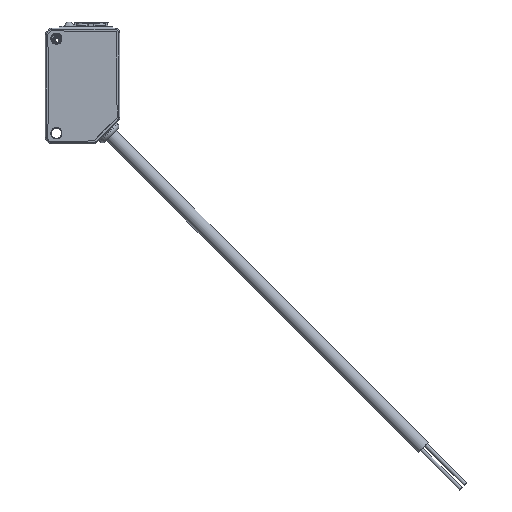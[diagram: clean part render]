
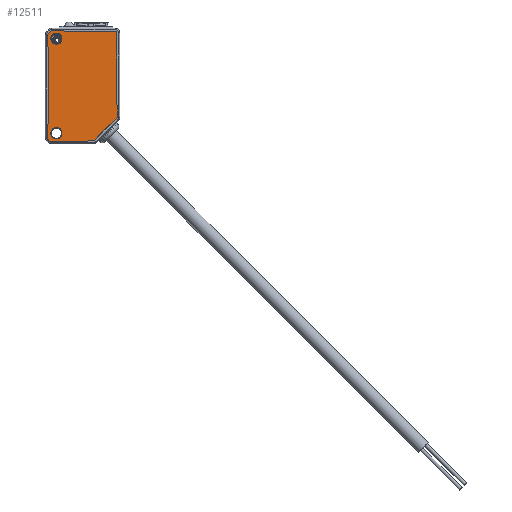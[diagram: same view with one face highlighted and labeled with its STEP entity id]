
A CAD part, top view. The second image highlights one B-rep face of the part: STEP entity #12511.
In plain terms, the highlighted planar face has unit normal (0, 0, 1).
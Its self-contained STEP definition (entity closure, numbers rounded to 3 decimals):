
#700=LINE('',#20838,#1560);
#704=LINE('',#20847,#1564);
#706=LINE('',#20852,#1566);
#710=LINE('',#20858,#1570);
#712=LINE('',#20862,#1572);
#713=LINE('',#20867,#1573);
#714=LINE('',#20869,#1574);
#715=LINE('',#20873,#1575);
#716=LINE('',#20875,#1576);
#717=LINE('',#20877,#1577);
#718=LINE('',#20881,#1578);
#719=LINE('',#20885,#1579);
#720=LINE('',#20887,#1580);
#721=LINE('',#20889,#1581);
#722=LINE('',#20891,#1582);
#723=LINE('',#20893,#1583);
#724=LINE('',#20897,#1584);
#1560=VECTOR('',#16628,2.893);
#1564=VECTOR('',#16638,8.602);
#1566=VECTOR('',#16642,9.659);
#1570=VECTOR('',#16648,0.424);
#1572=VECTOR('',#16652,1.469);
#1573=VECTOR('',#16659,0.424);
#1574=VECTOR('',#16660,19.289);
#1575=VECTOR('',#16663,13.522);
#1576=VECTOR('',#16664,0.424);
#1577=VECTOR('',#16665,2.981);
#1578=VECTOR('',#16668,1.554);
#1579=VECTOR('',#16671,2.981);
#1580=VECTOR('',#16672,0.424);
#1581=VECTOR('',#16673,20.34);
#1582=VECTOR('',#16674,0.426);
#1583=VECTOR('',#16675,3.504);
#1584=VECTOR('',#16678,0.954);
#2137=FACE_BOUND('',#3162,.T.);
#2138=FACE_BOUND('',#3163,.T.);
#2538=FACE_OUTER_BOUND('',#3161,.T.);
#3161=EDGE_LOOP('',(#9611,#9612,#9613,#9614,#9615,#9616,#9617,#9618,#9619,
#9620,#9621,#9622,#9623,#9624,#9625,#9626,#9627,#9628,#9629,#9630,#9631,
#9632,#9633,#9634));
#3162=EDGE_LOOP('',(#9635));
#3163=EDGE_LOOP('',(#9636));
#4041=CIRCLE('',#13663,1.5);
#4043=CIRCLE('',#13667,0.4);
#4044=CIRCLE('',#13673,0.35);
#4045=CIRCLE('',#13675,0.35);
#4046=CIRCLE('',#13676,0.35);
#4047=CIRCLE('',#13677,0.35);
#4048=CIRCLE('',#13678,0.35);
#4049=CIRCLE('',#13679,0.35);
#4050=CIRCLE('',#13680,1.5);
#5274=VERTEX_POINT('',#20830);
#5276=VERTEX_POINT('',#20835);
#5277=VERTEX_POINT('',#20837);
#5278=VERTEX_POINT('',#20841);
#5279=VERTEX_POINT('',#20845);
#5280=VERTEX_POINT('',#20849);
#5281=VERTEX_POINT('',#20851);
#5282=VERTEX_POINT('',#20856);
#5283=VERTEX_POINT('',#20860);
#5284=VERTEX_POINT('',#20866);
#5285=VERTEX_POINT('',#20868);
#5286=VERTEX_POINT('',#20870);
#5287=VERTEX_POINT('',#20872);
#5288=VERTEX_POINT('',#20874);
#5289=VERTEX_POINT('',#20876);
#5290=VERTEX_POINT('',#20878);
#5291=VERTEX_POINT('',#20880);
#5292=VERTEX_POINT('',#20882);
#5293=VERTEX_POINT('',#20884);
#5294=VERTEX_POINT('',#20886);
#5295=VERTEX_POINT('',#20888);
#5296=VERTEX_POINT('',#20890);
#5297=VERTEX_POINT('',#20892);
#5298=VERTEX_POINT('',#20894);
#5299=VERTEX_POINT('',#20896);
#5300=VERTEX_POINT('',#20899);
#6823=EDGE_CURVE('',#5274,#5274,#4041,.T.);
#6826=EDGE_CURVE('',#5276,#5277,#700,.T.);
#6828=EDGE_CURVE('',#5278,#5277,#4043,.T.);
#6831=EDGE_CURVE('',#5279,#5278,#704,.T.);
#6833=EDGE_CURVE('',#5280,#5281,#706,.T.);
#6837=EDGE_CURVE('',#5280,#5282,#710,.T.);
#6839=EDGE_CURVE('',#5283,#5282,#712,.T.);
#6840=EDGE_CURVE('',#5283,#5279,#4044,.T.);
#6841=EDGE_CURVE('',#5276,#5284,#713,.T.);
#6842=EDGE_CURVE('',#5285,#5284,#714,.T.);
#6843=EDGE_CURVE('',#5285,#5286,#4045,.T.);
#6844=EDGE_CURVE('',#5287,#5286,#715,.T.);
#6845=EDGE_CURVE('',#5287,#5288,#716,.T.);
#6846=EDGE_CURVE('',#5289,#5288,#717,.T.);
#6847=EDGE_CURVE('',#5289,#5290,#4046,.T.);
#6848=EDGE_CURVE('',#5290,#5291,#718,.T.);
#6849=EDGE_CURVE('',#5291,#5292,#4047,.T.);
#6850=EDGE_CURVE('',#5293,#5292,#719,.T.);
#6851=EDGE_CURVE('',#5293,#5294,#720,.T.);
#6852=EDGE_CURVE('',#5295,#5294,#721,.T.);
#6853=EDGE_CURVE('',#5295,#5296,#722,.T.);
#6854=EDGE_CURVE('',#5297,#5296,#723,.T.);
#6855=EDGE_CURVE('',#5297,#5298,#4048,.T.);
#6856=EDGE_CURVE('',#5298,#5299,#724,.T.);
#6857=EDGE_CURVE('',#5299,#5281,#4049,.T.);
#6858=EDGE_CURVE('',#5300,#5300,#4050,.T.);
#9611=ORIENTED_EDGE('',*,*,#6831,.T.);
#9612=ORIENTED_EDGE('',*,*,#6828,.T.);
#9613=ORIENTED_EDGE('',*,*,#6826,.F.);
#9614=ORIENTED_EDGE('',*,*,#6841,.T.);
#9615=ORIENTED_EDGE('',*,*,#6842,.F.);
#9616=ORIENTED_EDGE('',*,*,#6843,.T.);
#9617=ORIENTED_EDGE('',*,*,#6844,.F.);
#9618=ORIENTED_EDGE('',*,*,#6845,.T.);
#9619=ORIENTED_EDGE('',*,*,#6846,.F.);
#9620=ORIENTED_EDGE('',*,*,#6847,.T.);
#9621=ORIENTED_EDGE('',*,*,#6848,.T.);
#9622=ORIENTED_EDGE('',*,*,#6849,.T.);
#9623=ORIENTED_EDGE('',*,*,#6850,.F.);
#9624=ORIENTED_EDGE('',*,*,#6851,.T.);
#9625=ORIENTED_EDGE('',*,*,#6852,.F.);
#9626=ORIENTED_EDGE('',*,*,#6853,.T.);
#9627=ORIENTED_EDGE('',*,*,#6854,.F.);
#9628=ORIENTED_EDGE('',*,*,#6855,.T.);
#9629=ORIENTED_EDGE('',*,*,#6856,.T.);
#9630=ORIENTED_EDGE('',*,*,#6857,.T.);
#9631=ORIENTED_EDGE('',*,*,#6833,.F.);
#9632=ORIENTED_EDGE('',*,*,#6837,.T.);
#9633=ORIENTED_EDGE('',*,*,#6839,.F.);
#9634=ORIENTED_EDGE('',*,*,#6840,.T.);
#9635=ORIENTED_EDGE('',*,*,#6823,.T.);
#9636=ORIENTED_EDGE('',*,*,#6858,.T.);
#11513=PLANE('',#13674);
#12511=ADVANCED_FACE('',(#2538,#2137,#2138),#11513,.F.);
#13663=AXIS2_PLACEMENT_3D('',#20831,#16621,#16622);
#13667=AXIS2_PLACEMENT_3D('',#20842,#16632,#16633);
#13673=AXIS2_PLACEMENT_3D('',#20864,#16655,#16656);
#13674=AXIS2_PLACEMENT_3D('',#20865,#16657,#16658);
#13675=AXIS2_PLACEMENT_3D('',#20871,#16661,#16662);
#13676=AXIS2_PLACEMENT_3D('',#20879,#16666,#16667);
#13677=AXIS2_PLACEMENT_3D('',#20883,#16669,#16670);
#13678=AXIS2_PLACEMENT_3D('',#20895,#16676,#16677);
#13679=AXIS2_PLACEMENT_3D('',#20898,#16679,#16680);
#13680=AXIS2_PLACEMENT_3D('',#20900,#16681,#16682);
#16621=DIRECTION('center_axis',(0.,0.,-1.));
#16622=DIRECTION('ref_axis',(1.,0.,0.));
#16628=DIRECTION('',(0.,-1.,0.));
#16632=DIRECTION('center_axis',(0.,0.,1.));
#16633=DIRECTION('ref_axis',(0.707,-0.707,0.));
#16638=DIRECTION('',(0.707,0.707,0.));
#16642=DIRECTION('',(-1.,0.,0.));
#16648=DIRECTION('',(0.707,0.707,0.));
#16652=DIRECTION('',(-1.,0.,0.));
#16655=DIRECTION('center_axis',(0.,0.,1.));
#16656=DIRECTION('ref_axis',(1.,0.,0.));
#16657=DIRECTION('center_axis',(0.,0.,-1.));
#16658=DIRECTION('ref_axis',(-1.,0.,0.));
#16659=DIRECTION('',(-0.707,0.707,0.));
#16660=DIRECTION('',(0.,-1.,0.));
#16661=DIRECTION('center_axis',(0.,0.,1.));
#16662=DIRECTION('ref_axis',(1.,0.,0.));
#16663=DIRECTION('',(1.,0.,0.));
#16664=DIRECTION('',(-0.707,0.707,0.));
#16665=DIRECTION('',(1.,0.,0.));
#16666=DIRECTION('center_axis',(0.,0.,1.));
#16667=DIRECTION('ref_axis',(0.,1.,0.));
#16668=DIRECTION('',(-0.707,-0.707,0.));
#16669=DIRECTION('center_axis',(0.,0.,1.));
#16670=DIRECTION('ref_axis',(-0.707,0.707,0.));
#16671=DIRECTION('',(0.,1.,0.));
#16672=DIRECTION('',(0.707,-0.707,0.));
#16673=DIRECTION('',(0.,1.,0.));
#16674=DIRECTION('',(-0.704,-0.71,0.));
#16675=DIRECTION('',(0.,1.,0.));
#16676=DIRECTION('center_axis',(0.,0.,1.));
#16677=DIRECTION('ref_axis',(1.,0.,0.));
#16678=DIRECTION('',(0.707,-0.707,0.));
#16679=DIRECTION('center_axis',(0.,0.,1.));
#16680=DIRECTION('ref_axis',(-0.707,-0.707,0.));
#16681=DIRECTION('center_axis',(0.,0.,-1.));
#16682=DIRECTION('ref_axis',(-1.,0.,0.));
#20830=CARTESIAN_POINT('',(24.5,54.14,-34.5));
#20831=CARTESIAN_POINT('Origin',(23.,54.14,-34.5));
#20835=CARTESIAN_POINT('',(39.45,61.562,-34.5));
#20837=CARTESIAN_POINT('',(39.45,58.668,-34.5));
#20838=CARTESIAN_POINT('',(39.45,61.562,-34.5));
#20841=CARTESIAN_POINT('',(39.333,58.385,-34.5));
#20842=CARTESIAN_POINT('Origin',(39.05,58.668,-34.5));
#20845=CARTESIAN_POINT('',(33.25,52.303,-34.5));
#20847=CARTESIAN_POINT('',(33.25,52.303,-34.5));
#20849=CARTESIAN_POINT('',(31.232,51.9,-34.5));
#20851=CARTESIAN_POINT('',(21.573,51.9,-34.5));
#20852=CARTESIAN_POINT('',(31.232,51.9,-34.5));
#20856=CARTESIAN_POINT('',(31.532,52.2,-34.5));
#20858=CARTESIAN_POINT('',(31.232,51.9,-34.5));
#20860=CARTESIAN_POINT('',(33.,52.2,-34.5));
#20862=CARTESIAN_POINT('',(33.,52.2,-34.5));
#20864=CARTESIAN_POINT('Origin',(33.003,52.55,-34.5));
#20865=CARTESIAN_POINT('Origin',(29.849,66.85,-34.5));
#20866=CARTESIAN_POINT('',(39.15,61.862,-34.5));
#20867=CARTESIAN_POINT('',(39.45,61.562,-34.5));
#20868=CARTESIAN_POINT('',(39.15,81.15,-34.5));
#20869=CARTESIAN_POINT('',(39.15,81.15,-34.5));
#20870=CARTESIAN_POINT('',(38.8,81.5,-34.5));
#20871=CARTESIAN_POINT('Origin',(38.8,81.15,-34.5));
#20872=CARTESIAN_POINT('',(25.278,81.5,-34.5));
#20873=CARTESIAN_POINT('',(25.278,81.5,-34.5));
#20874=CARTESIAN_POINT('',(24.978,81.8,-34.5));
#20875=CARTESIAN_POINT('',(25.278,81.5,-34.5));
#20876=CARTESIAN_POINT('',(21.997,81.8,-34.5));
#20877=CARTESIAN_POINT('',(21.997,81.8,-34.5));
#20878=CARTESIAN_POINT('',(21.75,81.698,-34.5));
#20879=CARTESIAN_POINT('Origin',(21.997,81.45,-34.5));
#20880=CARTESIAN_POINT('',(20.651,80.599,-34.5));
#20881=CARTESIAN_POINT('',(21.75,81.698,-34.5));
#20882=CARTESIAN_POINT('',(20.548,80.351,-34.5));
#20883=CARTESIAN_POINT('Origin',(20.898,80.351,-34.5));
#20884=CARTESIAN_POINT('',(20.548,77.371,-34.5));
#20885=CARTESIAN_POINT('',(20.548,77.371,-34.5));
#20886=CARTESIAN_POINT('',(20.848,77.071,-34.5));
#20887=CARTESIAN_POINT('',(20.548,77.371,-34.5));
#20888=CARTESIAN_POINT('',(20.848,56.731,-34.5));
#20889=CARTESIAN_POINT('',(20.848,56.731,-34.5));
#20890=CARTESIAN_POINT('',(20.548,56.428,-34.5));
#20891=CARTESIAN_POINT('',(20.848,56.731,-34.5));
#20892=CARTESIAN_POINT('',(20.548,52.924,-34.5));
#20893=CARTESIAN_POINT('',(20.548,52.924,-34.5));
#20894=CARTESIAN_POINT('',(20.651,52.677,-34.5));
#20895=CARTESIAN_POINT('Origin',(20.898,52.925,-34.5));
#20896=CARTESIAN_POINT('',(21.325,52.003,-34.5));
#20897=CARTESIAN_POINT('',(20.651,52.677,-34.5));
#20898=CARTESIAN_POINT('Origin',(21.573,52.25,-34.5));
#20899=CARTESIAN_POINT('',(24.5,79.54,-34.5));
#20900=CARTESIAN_POINT('Origin',(23.,79.54,-34.5));
